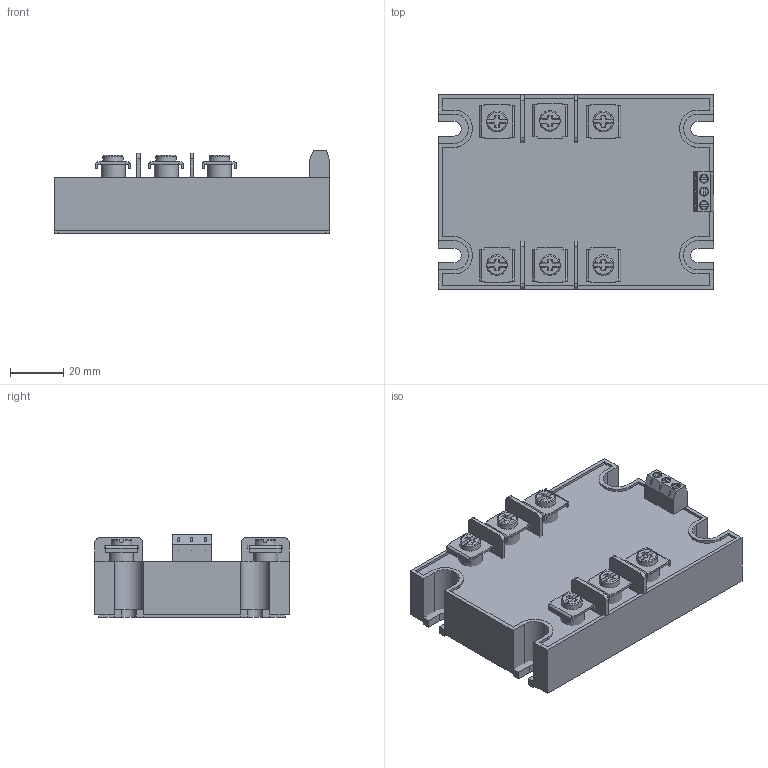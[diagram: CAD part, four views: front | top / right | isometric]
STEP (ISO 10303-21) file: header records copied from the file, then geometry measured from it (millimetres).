
FILE_DESCRIPTION(('FreeCAD Model'),'2;1');
FILE_NAME('C:/Users/Metaltex-99/Desktop/TSR.stp','2020-11-05T11:38:19',( 'Engenharia Metaltex'),('Metaltex'), 'Open CASCADE STEP processor 7.3','FreeCAD','Unknown');
FILE_SCHEMA(('AUTOMOTIVE_DESIGN { 1 0 10303 214 1 1 1 1 }'));
Products named in the file (1): TSR
Bounding box: 103.5 x 73 x 31 mm (x, y, z)
Volume: 51821.9 mm3; surface area: 60971.4 mm2
Topology: 26 solids, 26 shells, 652 faces, 5095 edges, 7739 vertices
Faces by surface type: plane 510, cylinder 118, torus 18, cone 6
Full cylindrical faces by diameter (mm): 0.8 x3, 2.8 x3, 3 x3, 3.4 x3, 4 x12, 4.5 x6, 6 x12, 9 x12
Entity records: 82151 total; most frequent: CARTESIAN_POINT 19661, DIRECTION 10331, LINE 6730, VECTOR 6730, GEOMETRIC_CURVE_SET 3424, TRIMMED_CURVE 3424, ORIENTED_EDGE 3342, PCURVE 3342
